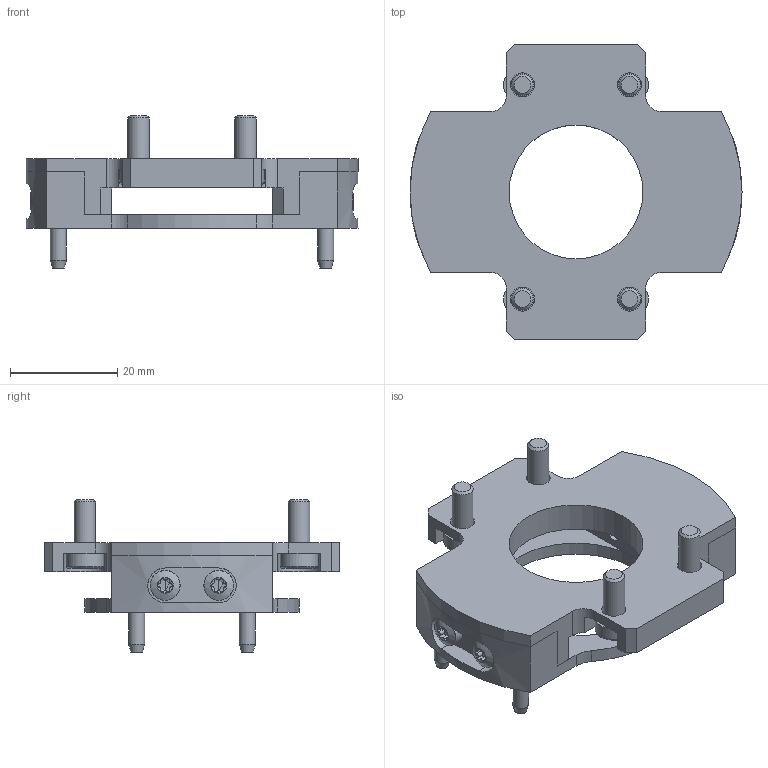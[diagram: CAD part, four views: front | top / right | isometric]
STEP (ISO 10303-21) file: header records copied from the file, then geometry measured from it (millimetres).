
FILE_DESCRIPTION(/* description */ (''),/* implementation_level */ '2;1');
FILE_NAME(/* name */ 'C:\ProgramData\PROCAD GmbH & Co. KG\NdfWork\339574_NdfWork\D00293028.step',/* time_stamp */ '2021-03-05T09:02:25+01:00',/* author */ ('fberger'),/* organization */ (''),/* preprocessor_version */ 'ST-DEVELOPER v18.1',/* originating_system */ 'Autodesk Inventor 2020',/* authorisation */ '');
FILE_SCHEMA (('AUTOMOTIVE_DESIGN { 1 0 10303 214 3 1 1 }'));
Length unit declared in the file: millimetre
Products named in the file (6): D00293028.iam; D00291212.ipt; D00291213.ipt; D00187700.ipt; D00128762.ipt; D00292872.ipt
Assembly tree (14 placements, depth 2):
  D00293028.iam
    D00291212.ipt
    D00291213.ipt
    D00187700.ipt  x4
    D00128762.ipt  x4
    D00292872.ipt  x4
Bounding box: 62 x 55 x 28.5 mm (x, y, z)
Volume: 17329.3 mm3; surface area: 14481.3 mm2
Topology: 14 solids, 14 shells, 400 faces, 1085 edges, 735 vertices
Faces by surface type: cylinder 168, plane 120, bspline 48, torus 32, cone 28, sphere 4
Full cylindrical faces by diameter (mm): 2.459 x4, 2.828 x4, 3 x8, 3.3 x8, 4 x4, 4.5 x4, 5.3 x4, 5.6 x4, 6 x4, 7 x4, 25 x1, 30 x1
Entity records: 7353 total; most frequent: CARTESIAN_POINT 2382, DIRECTION 990, ORIENTED_EDGE 988, EDGE_CURVE 494, AXIS2_PLACEMENT_3D 377, VERTEX_POINT 339, LINE 236, VECTOR 236
